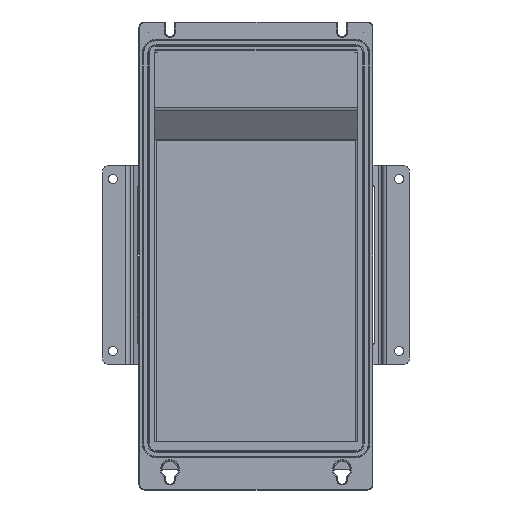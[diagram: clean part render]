
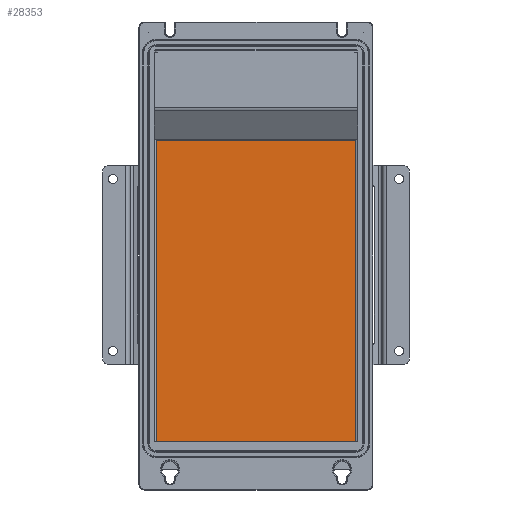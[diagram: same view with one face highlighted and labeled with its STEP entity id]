
A CAD part, front view. The second image highlights one B-rep face of the part: STEP entity #28353.
In plain terms, the highlighted planar face has unit normal (0, -1, 0).
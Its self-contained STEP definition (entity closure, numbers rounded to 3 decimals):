
#222 = VECTOR ( 'NONE', #10362, 1000. ) ;
#808 = VECTOR ( 'NONE', #42623, 1000. ) ;
#1111 = CARTESIAN_POINT ( 'NONE',  ( 72.616, -73.5, -6.261 ) ) ;
#1187 = LINE ( 'NONE', #15578, #808 ) ;
#7291 = ORIENTED_EDGE ( 'NONE', *, *, #50972, .F. ) ;
#7378 = ORIENTED_EDGE ( 'NONE', *, *, #57384, .T. ) ;
#10362 = DIRECTION ( 'NONE',  ( -1., 0., 0. ) ) ;
#11355 = LINE ( 'NONE', #32270, #31384 ) ;
#13941 = ORIENTED_EDGE ( 'NONE', *, *, #60888, .F. ) ;
#15578 = CARTESIAN_POINT ( 'NONE',  ( 0., -73.5, -6.261 ) ) ;
#19627 = CARTESIAN_POINT ( 'NONE',  ( -72., -73.5, -225. ) ) ;
#19952 = DIRECTION ( 'NONE',  ( 1., 0., 0. ) ) ;
#25233 = CARTESIAN_POINT ( 'NONE',  ( 72.616, -73.5, -225. ) ) ;
#25507 = VERTEX_POINT ( 'NONE', #59211 ) ;
#26433 = PLANE ( 'NONE',  #51232 ) ;
#28353 = ADVANCED_FACE ( 'NONE', ( #36051 ), #26433, .F. ) ;
#31053 = VECTOR ( 'NONE', #67294, 1000. ) ;
#31203 = VERTEX_POINT ( 'NONE', #36559 ) ;
#31384 = VECTOR ( 'NONE', #48013, 1000. ) ;
#32270 = CARTESIAN_POINT ( 'NONE',  ( 72.616, -73.5, -1.098 ) ) ;
#36051 = FACE_OUTER_BOUND ( 'NONE', #59737, .T. ) ;
#36559 = CARTESIAN_POINT ( 'NONE',  ( -72.616, -73.5, -225. ) ) ;
#37505 = LINE ( 'NONE', #46442, #31053 ) ;
#42623 = DIRECTION ( 'NONE',  ( -1., 0., 0. ) ) ;
#46442 = CARTESIAN_POINT ( 'NONE',  ( -72.616, -73.5, -1.098 ) ) ;
#48013 = DIRECTION ( 'NONE',  ( 0., 0., -1. ) ) ;
#48335 = VERTEX_POINT ( 'NONE', #1111 ) ;
#48931 = VERTEX_POINT ( 'NONE', #25233 ) ;
#50972 = EDGE_CURVE ( 'NONE', #31203, #25507, #37505, .T. ) ;
#51232 = AXIS2_PLACEMENT_3D ( 'NONE', #52135, #52454, #19952 ) ;
#52135 = CARTESIAN_POINT ( 'NONE',  ( 0., -73.5, -83.5 ) ) ;
#52454 = DIRECTION ( 'NONE',  ( 0., 1., 0. ) ) ;
#56477 = EDGE_CURVE ( 'NONE', #48335, #48931, #11355, .T. ) ;
#56888 = ORIENTED_EDGE ( 'NONE', *, *, #56477, .F. ) ;
#57384 = EDGE_CURVE ( 'NONE', #48335, #25507, #1187, .T. ) ;
#59211 = CARTESIAN_POINT ( 'NONE',  ( -72.616, -73.5, -6.261 ) ) ;
#59737 = EDGE_LOOP ( 'NONE', ( #7378, #7291, #13941, #56888 ) ) ;
#60888 = EDGE_CURVE ( 'NONE', #48931, #31203, #61390, .T. ) ;
#61390 = LINE ( 'NONE', #19627, #222 ) ;
#67294 = DIRECTION ( 'NONE',  ( 0., 0., 1. ) ) ;
